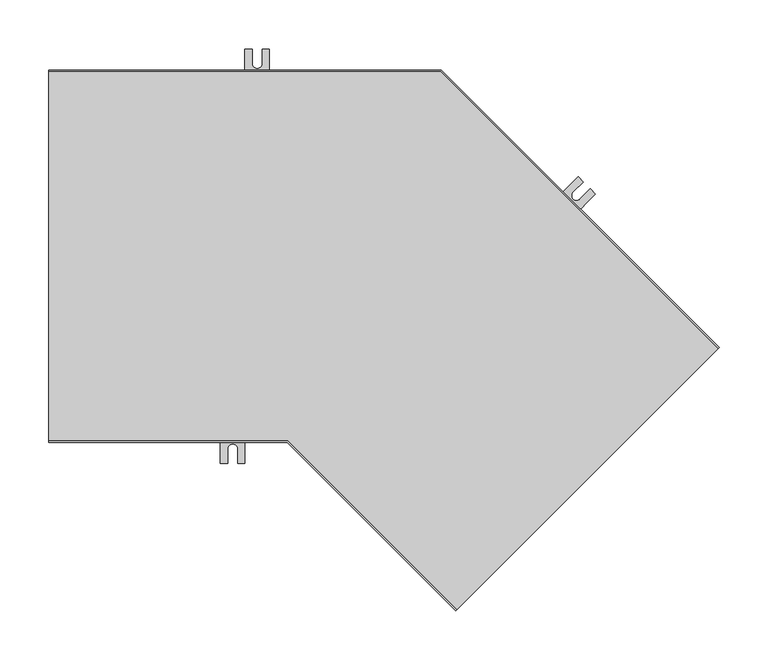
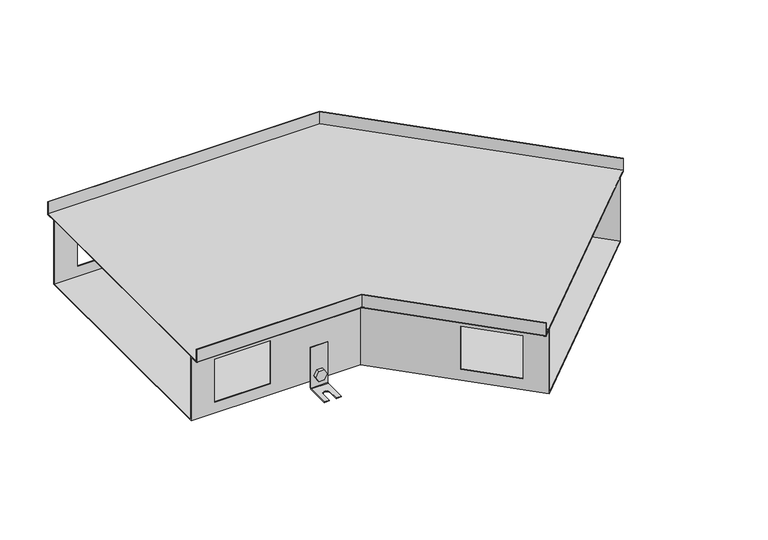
"""IFC4 building model written with IfcOpenShell, lengths in millimetres: proxy geometry, TECHNO_Угловой элемент_KVU : 380_120_135°."""

import ifcopenshell
import ifcopenshell.guid

model = None  # the IFC model being written
_history = None  # IfcOwnerHistory: only IFC2X3 demands one
_inside = {}  # id of a spatial element -> (the spatial element, [elements in it])
_under = {}  # id of a project, library or spatial element -> (it, [spatial elements below it])
_declared = {}  # id of a project -> (the project, [libraries it declares])
_typed = {}  # id of a type object -> (the type object, [elements of that type])
_made_of = {}  # id of a material, layer set ... -> (it, [elements and type objects made of it])


def new_model(schema):
    """Start an empty IFC model of exactly this schema.

    Asked for "IFC4X3", IfcOpenShell would pick the latest addendum, in which some entities
    have other attributes; the version numbers below select the first issue.
    IFC2X3 requires an IfcOwnerHistory on every rooted entity: one is made here for all.
    """
    global model, _history
    if schema == "IFC4X3":
        model = ifcopenshell.file(schema_version=(4, 3, 0, 0))
    else:
        model = ifcopenshell.file(schema=schema)
    _inside.clear()
    _under.clear()
    _declared.clear()
    _typed.clear()
    _made_of.clear()
    _history = None
    if model.schema == "IFC2X3":
        org = make("IfcOrganization", Name="unknown")
        user = make(
            "IfcPersonAndOrganization",
            ThePerson=make("IfcPerson", FamilyName="unknown"),
            TheOrganization=org,
        )
        app = make(
            "IfcApplication",
            ApplicationDeveloper=org,
            Version="unknown",
            ApplicationFullName="unknown",
            ApplicationIdentifier="unknown",
        )
        _history = make(
            "IfcOwnerHistory",
            OwningUser=user,
            OwningApplication=app,
            ChangeAction="ADDED",
            CreationDate=0,
        )
    return model


def make(cls, **values):
    """One entity of the class cls with the attributes given. An attribute that is None is left unset."""
    return model.create_entity(
        cls, **{name: value for name, value in values.items() if value is not None}
    )


def rooted(cls, **values):
    """An entity with a GlobalId (a new one), such as an element, a storey or a relation."""
    return make(cls, GlobalId=ifcopenshell.guid.new(), OwnerHistory=_history, **values)


def si_unit(unit_type, name, prefix=None):
    """IfcSIUnit, for example si_unit("LENGTHUNIT", "METRE", prefix="MILLI")."""
    return make("IfcSIUnit", UnitType=unit_type, Prefix=prefix, Name=name)


def assignment(units):
    """IfcUnitAssignment: the units of a project."""
    return None if units is None else make("IfcUnitAssignment", Units=units)


def point(xyz):
    """IfcCartesianPoint."""
    return None if xyz is None else make("IfcCartesianPoint", Coordinates=xyz)


def direction(xyz):
    """IfcDirection."""
    return None if xyz is None else make("IfcDirection", DirectionRatios=xyz)


def frame(location, z_axis=None, x_axis=None):
    """IfcAxis2Placement3D, a coordinate frame: its origin and axes. An axis left out is left unset."""
    return make(
        "IfcAxis2Placement3D",
        Location=point(location),
        Axis=direction(z_axis),
        RefDirection=direction(x_axis),
    )


def frame_2d(location, x_axis=None):
    """IfcAxis2Placement2D, a coordinate frame in the plane: its origin and x axis."""
    return make(
        "IfcAxis2Placement2D", Location=point(location), RefDirection=direction(x_axis)
    )


def origin():
    """The frame at (0, 0, 0) with its axes left unset."""
    return frame((0.0, 0.0, 0.0))


def place(relative_to, where):
    """IfcLocalPlacement: puts the frame where relative to a parent placement (None: the world)."""
    return make(
        "IfcLocalPlacement", PlacementRelTo=relative_to, RelativePlacement=where
    )


def context(
    kind, dimensions, precision=None, world=None, true_north=None, identifier=None
):
    """IfcGeometricRepresentationContext, for example the 3D "Model" context."""
    return make(
        "IfcGeometricRepresentationContext",
        ContextIdentifier=identifier,
        ContextType=kind,
        CoordinateSpaceDimension=dimensions,
        Precision=precision,
        WorldCoordinateSystem=world,
        TrueNorth=true_north,
    )


def project(units=None, contexts=None):
    """IfcProject with its units and contexts."""
    return rooted(
        "IfcProject",
        Name="project",
        RepresentationContexts=contexts,
        UnitsInContext=assignment(units),
    )


def spatial(cls, under=None, at=None, **own):
    """A site, building, storey or space (cls), placed at a placement, below another one or the project."""
    s = rooted(cls, ObjectPlacement=at, **own)
    if under is not None:
        _under.setdefault(under.id(), (under, []))[1].append(s)
    return s


def polyline(points):
    """IfcPolyline through the points."""
    return make("IfcPolyline", Points=[point(p) for p in points])


def circle_curve(where, radius):
    """IfcCircle in the frame where."""
    return make("IfcCircle", Position=where, Radius=radius)


def ellipse_curve(where, semi_axis1, semi_axis2):
    """IfcEllipse in the frame where."""
    return make(
        "IfcEllipse", Position=where, SemiAxis1=semi_axis1, SemiAxis2=semi_axis2
    )


def trimmed(basis, trim1, trim2, sense, master):
    """IfcTrimmedCurve: the piece of a basis curve between two trims."""
    return make(
        "IfcTrimmedCurve",
        BasisCurve=basis,
        Trim1=trim1,
        Trim2=trim2,
        SenseAgreement=sense,
        MasterRepresentation=master,
    )


def segment(curve, same_sense, transition):
    """IfcCompositeCurveSegment."""
    return make(
        "IfcCompositeCurveSegment",
        Transition=transition,
        SameSense=same_sense,
        ParentCurve=curve,
    )


def composite_curve(segments, self_intersect=None):
    """IfcCompositeCurve: segments joined end to end."""
    return make("IfcCompositeCurve", Segments=segments, SelfIntersect=self_intersect)


def outline(outer, holes=None, kind="AREA"):
    """IfcArbitraryClosedProfileDef: a profile drawn as a closed curve; with holes, ...WithVoids."""
    if holes is None:
        return make("IfcArbitraryClosedProfileDef", ProfileType=kind, OuterCurve=outer)
    return make(
        "IfcArbitraryProfileDefWithVoids",
        ProfileType=kind,
        OuterCurve=outer,
        InnerCurves=holes,
    )


def extrude(swept, where, along, depth):
    """IfcExtrudedAreaSolid: the profile swept, set in the frame where, extruded along a direction by depth."""
    return make(
        "IfcExtrudedAreaSolid",
        SweptArea=swept,
        Position=where,
        ExtrudedDirection=direction(along),
        Depth=depth,
    )


def shape(context_of_items, identifier, shape_type, items):
    """IfcShapeRepresentation: the items that make up one representation, for example the "Body"."""
    return make(
        "IfcShapeRepresentation",
        ContextOfItems=context_of_items,
        RepresentationIdentifier=identifier,
        RepresentationType=shape_type,
        Items=items,
    )


def source(mapping_origin, context_of_items, identifier, shape_type, items):
    """IfcRepresentationMap: a shape defined once, which mapped items show again and again."""
    return make(
        "IfcRepresentationMap",
        MappingOrigin=mapping_origin,
        MappedRepresentation=shape(context_of_items, identifier, shape_type, items),
    )


def transform(
    local_origin,
    x_axis=None,
    y_axis=None,
    z_axis=None,
    scale=None,
    scale2=None,
    scale3=None,
    uniform=True,
):
    """IfcCartesianTransformationOperator3D, or its non-uniform kind. x_axis, y_axis, z_axis: its Axis1, 2, 3."""
    if uniform:
        return make(
            "IfcCartesianTransformationOperator3D",
            Axis1=direction(x_axis),
            Axis2=direction(y_axis),
            LocalOrigin=point(local_origin),
            Scale=scale,
            Axis3=direction(z_axis),
        )
    return make(
        "IfcCartesianTransformationOperator3DnonUniform",
        Axis1=direction(x_axis),
        Axis2=direction(y_axis),
        LocalOrigin=point(local_origin),
        Scale=scale,
        Axis3=direction(z_axis),
        Scale2=scale2,
        Scale3=scale3,
    )


def mapped(mapping_source, mapping_target):
    """IfcMappedItem: shows the shape of a source again, moved by a transform."""
    return make(
        "IfcMappedItem", MappingSource=mapping_source, MappingTarget=mapping_target
    )


def made_of(thing, what):
    """Note that an element or type object is made of a material, layer set ...; save() writes the relation."""
    if what is not None:
        _made_of.setdefault(what.id(), (what, []))[1].append(thing)
    return thing


def element(
    cls,
    number,
    at=None,
    inside=None,
    cuts=None,
    type_object=None,
    material=None,
    context=None,
    identifier="Body",
    shape_type=None,
    held_by="IfcProductDefinitionShape",
    body=None,
    shapes=None,
    **own,
):
    """One element of the class cls, such as IfcWall. Its Tag is "e" and its number.

    at: its placement. inside: the storey or other place that contains it. cuts: it is an
    opening in that element (IfcRelVoidsElement). A single representation is given by context,
    identifier, shape_type and body (its items); several are given by shapes. held_by: the class
    of the entity that holds the representations. save() writes the other relations.
    """
    e = rooted(cls, Tag="e%d" % number, ObjectPlacement=at, **own)
    if body is not None:
        shapes = [shape(context, identifier, shape_type, body)]
    if shapes is not None:
        e.Representation = make(held_by, Representations=shapes)
    if inside is not None:
        _inside.setdefault(inside.id(), (inside, []))[1].append(e)
    if cuts is not None:
        rooted(
            "IfcRelVoidsElement", RelatingBuildingElement=cuts, RelatedOpeningElement=e
        )
    if type_object is not None:
        _typed.setdefault(type_object.id(), (type_object, []))[1].append(e)
    return made_of(e, material)


def aggregate(whole, parts):
    """IfcRelAggregates: a whole, such as a stair, and the parts it consists of."""
    return rooted("IfcRelAggregates", RelatingObject=whole, RelatedObjects=parts)


def save(model, path):
    """Write the relations noted so far, then the file.

    IfcRelAggregates (storeys below a building ...), IfcRelContainedInSpatialStructure (elements
    in a storey), IfcRelDefinesByType, IfcRelAssociatesMaterial and IfcRelDeclares: one each for
    every whole, place, type object, material and project.
    """
    for whole, parts in _under.values():
        aggregate(whole, parts)
    for where, things in _inside.values():
        rooted(
            "IfcRelContainedInSpatialStructure",
            RelatedElements=things,
            RelatingStructure=where,
        )
    for kind, things in _typed.values():
        rooted("IfcRelDefinesByType", RelatedObjects=things, RelatingType=kind)
    for what, things in _made_of.values():
        rooted("IfcRelAssociatesMaterial", RelatedObjects=things, RelatingMaterial=what)
    for by, libraries in _declared.values():
        rooted("IfcRelDeclares", RelatingContext=by, RelatedDefinitions=libraries)
    model.write(path)


def plane_surface(at):
    """IfcPlane: the flat surface through the origin of the frame at, square to its z axis."""
    return make("IfcPlane", Position=at)


def cylinder_surface(at, radius):
    """IfcCylindricalSurface: all points at the distance radius from the z axis of the frame at."""
    return make("IfcCylindricalSurface", Position=at, Radius=radius)


def revolved_surface(curve, axis_point, axis_direction):
    """IfcSurfaceOfRevolution: the curve turned about the line through axis_point along axis_direction."""
    return make(
        "IfcSurfaceOfRevolution",
        SweptCurve=make("IfcArbitraryOpenProfileDef", ProfileType="CURVE", Curve=curve),
        AxisPosition=make("IfcAxis1Placement", Location=point(axis_point), Axis=direction(axis_direction)),
    )


def advanced_brep(points, edges, surfaces, faces):
    """IfcAdvancedBrep: a solid bounded by faces that lie on surfaces and meet in shared edges.

    An edge is (start, end): straight between two places in points (the first is 0);
    or (start, end, curve); or (start, end, curve, False) where it runs against its curve.
    A face is (place in surfaces, loops), or (place, loops, False) where it looks against
    its surface's normal. A loop lists edges by number (the first is 1), with a minus sign
    where the edge is run from its end to its start. The first loop is the outer one.
    """
    corners = [point(p) for p in points]
    vertices = [make("IfcVertexPoint", VertexGeometry=c) for c in corners]
    made = []
    for start, end, *more in edges:
        made.append(
            make(
                "IfcEdgeCurve",
                EdgeStart=vertices[start],
                EdgeEnd=vertices[end],
                EdgeGeometry=more[0] if more else make("IfcPolyline", Points=[corners[start], corners[end]]),
                SameSense=more[1] if len(more) > 1 else True,
            )
        )
    hull = []
    for where, loops, *sense in faces:
        bounds = []
        for j, loop in enumerate(loops):
            ring = [make("IfcOrientedEdge", EdgeElement=made[abs(k) - 1], Orientation=k > 0) for k in loop]
            bounds.append(
                make(
                    "IfcFaceOuterBound" if j == 0 else "IfcFaceBound",
                    Bound=make("IfcEdgeLoop", EdgeList=ring),
                    Orientation=True,
                )
            )
        hull.append(make("IfcAdvancedFace", Bounds=bounds, FaceSurface=surfaces[where], SameSense=sense[0] if sense else True))
    return make("IfcAdvancedBrep", Outer=make("IfcClosedShell", CfsFaces=hull))


def mechanical_equipment_12d65528(model_context):
    return source(origin(), model_context, "Body", "SolidModel", [
        extrude(outline(composite_curve([segment(trimmed(circle_curve(frame_2d((0.0, -7.5)), 7.5), [point((0.0, -15.0))], [point((0.0, 0.0))], False, "CARTESIAN"), True, "CONTINUOUS"), segment(trimmed(circle_curve(frame_2d((0.0, -7.5)), 7.5), [point((0.0, 0.0))], [point((0.0, -15.0))], False, "CARTESIAN"), True, "CONTINUOUS")], self_intersect=False)), frame((482.1001225, -40.233968, -110.5), z_axis=(0.7071067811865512, 0.7071067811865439, 0.0), x_axis=(0.0, 0.0, 1.0)), (0.0, 0.0, 1.0), 1.5),
        extrude(outline(polyline([(0.0, 0.0), (8.660254, 0.0), (12.990381, -7.5), (8.660254, -15.0), (0.0, -15.0), (-4.330127, -7.5), (0.0, 0.0)])), frame((466.2183246, -33.2617155, -110.5), z_axis=(0.7071067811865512, 0.7071067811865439, 0.0), x_axis=(0.3535533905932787, -0.3535533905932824, -0.8660254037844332)), (0.0, 0.0, 1.0), 5.1),
        advanced_brep(
        [(484.7871283, -44.61803, -65.5), (484.7871283, -44.61803, -128.5), (484.2214429, -45.1837154, -129.3), (460.8869191, -68.5182392, -129.3), (460.8869191, -68.5182392, -130.5), (484.2214429, -45.1837154, -130.5), (485.6356565, -43.7695019, -128.5), (485.6356565, -43.7695019, -65.5), (467.1094588, -26.9403605, -65.5), (467.9579869, -26.0918323, -65.5), (467.9579869, -26.0918323, -128.5), (466.5437734, -27.5060459, -130.5), (443.2092496, -50.8405697, -130.5), (443.2092496, -50.8405697, -129.3), (466.5437734, -27.5060459, -129.3), (467.1094588, -26.9403605, -128.5), (448.5125504, -56.1438705, -129.3), (459.1191522, -45.5372688, -129.3), (466.19022, -52.6083366, -129.3), (455.5836183, -63.2149383, -129.3), (455.5836183, -63.2149383, -130.5), (448.5125504, -56.1438705, -130.5), (466.19022, -52.6083366, -130.5), (459.1191522, -45.5372688, -130.5)],
        [
            (0, 1),
            (1, 2, circle_curve(frame((484.2214429, -45.1837154, -128.5), z_axis=(-0.7071067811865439, 0.7071067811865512, 0.0), x_axis=(-0.7071067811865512, -0.7071067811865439, 0.0)), 0.8)),
            (2, 3),
            (3, 4),
            (4, 5),
            (5, 6, circle_curve(frame((484.2214429, -45.1837154, -128.5), z_axis=(0.7071067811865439, -0.7071067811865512, 0.0), x_axis=(-0.7071067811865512, -0.7071067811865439, 0.0)), 2.0)),
            (6, 7),
            (7, 0),
            (8, 9),
            (9, 10),
            (10, 11, circle_curve(frame((466.5437734, -27.5060459, -128.5), z_axis=(-0.7071067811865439, 0.7071067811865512, 0.0), x_axis=(-0.7071067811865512, -0.7071067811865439, 0.0)), 2.0)),
            (11, 12),
            (12, 13),
            (13, 14),
            (14, 15, circle_curve(frame((466.5437734, -27.5060459, -128.5), z_axis=(0.7071067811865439, -0.7071067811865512, 0.0), x_axis=(-0.7071067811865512, -0.7071067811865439, 0.0)), 0.8)),
            (15, 8),
            (0, 8),
            (15, 1),
            (14, 2),
            (13, 16),
            (16, 17),
            (17, 18, circle_curve(frame((462.6546861, -49.0728027, -129.3), z_axis=(0.0, 0.0, -1.0), x_axis=(0.7071067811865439, -0.7071067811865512, 0.0)), 5.0)),
            (18, 19),
            (19, 3),
            (19, 20),
            (20, 4),
            (12, 21),
            (21, 16),
            (20, 22),
            (22, 23, circle_curve(frame((462.6546861, -49.0728027, -130.5), z_axis=(0.0, 0.0, 1.0), x_axis=(0.7071067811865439, -0.7071067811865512, 0.0)), 5.0)),
            (23, 21),
            (11, 5),
            (10, 6),
            (9, 7),
            (23, 17),
            (18, 22),
        ],
        [
            plane_surface(frame((484.7871283, -44.61803, -65.5), z_axis=(0.7071067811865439, -0.7071067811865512, 0.0), x_axis=(0.0, 0.0, -1.0))),
            plane_surface(frame((467.1094588, -26.9403605, -65.5), z_axis=(-0.7071067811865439, 0.7071067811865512, 0.0), x_axis=(0.0, 0.0, 1.0))),
            plane_surface(frame((484.7871283, -44.61803, -65.5), z_axis=(-0.7071067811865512, -0.7071067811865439, 0.0), x_axis=(-0.7071067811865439, 0.7071067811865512, 0.0))),
            revolved_surface(polyline([(465.97808797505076, -28.071731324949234, -128.5), (483.6557574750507, -45.74940082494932, -128.5)]), (466.5437734, -27.5060459, -128.5), (-0.7071067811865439, 0.7071067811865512, 0.0)),
            plane_surface(frame((484.2214429, -45.1837154, -129.3), z_axis=(0.0, 0.0, 1.0), x_axis=(-0.7071067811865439, 0.7071067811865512, 0.0))),
            plane_surface(frame((460.8869191, -68.5182392, -129.3), z_axis=(-0.7071067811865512, -0.7071067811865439, 0.0), x_axis=(-0.7071067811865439, 0.7071067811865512, 0.0))),
            plane_surface(frame((460.8869191, -68.5182392, -130.5), z_axis=(0.0, 0.0, -1.0), x_axis=(-0.7071067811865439, 0.7071067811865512, 0.0))),
            cylinder_surface(frame((466.5437734, -27.5060459, -128.5), z_axis=(0.7071067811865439, -0.7071067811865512, 0.0), x_axis=(-0.7071067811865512, -0.7071067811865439, 0.0)), 2.0),
            plane_surface(frame((485.6356565, -43.7695019, -128.5), z_axis=(0.7071067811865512, 0.7071067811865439, 0.0), x_axis=(-0.7071067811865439, 0.7071067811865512, 0.0))),
            plane_surface(frame((485.6356565, -43.7695019, -65.5), z_axis=(0.0, 0.0, 1.0), x_axis=(-0.7071067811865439, 0.7071067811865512, 0.0))),
            plane_surface(frame((459.1191522, -45.5372688, -129.3), z_axis=(0.7071067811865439, -0.7071067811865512, 0.0), x_axis=(0.0, 0.0, -1.0))),
            plane_surface(frame((455.5836183, -63.2149383, -129.3), z_axis=(-0.707106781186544, 0.7071067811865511, 0.0), x_axis=(0.0, 0.0, -1.0))),
            revolved_surface(polyline([(466.1902200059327, -52.608336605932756, -129.3), (466.1902200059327, -52.608336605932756, -130.5)]), (462.6546861, -49.0728027, -130.5), (0.0, 0.0, 1.0)),
        ],
        [
            (0, [[1, 2, 3, 4, 5, 6, 7, 8]]),
            (1, [[9, 10, 11, 12, 13, 14, 15, 16]]),
            (2, [[-1, 17, -16, 18]]),
            (3, [[-2, -18, -15, 19]]),
            (4, [[-3, -19, -14, 20, 21, 22, 23, 24]]),
            (5, [[-4, -24, 25, 26]]),
            (5, [[-13, 27, 28, -20]]),
            (6, [[-5, -26, 29, 30, 31, -27, -12, 32]]),
            (7, [[-6, -32, -11, 33]]),
            (8, [[-7, -33, -10, 34]]),
            (9, [[-8, -34, -9, -17]]),
            (10, [[35, -21, -28, -31]]),
            (11, [[36, -29, -25, -23]]),
            (12, [[-35, -30, -36, -22]]),
        ],
    ),
        extrude(outline(composite_curve([segment(trimmed(circle_curve(frame_2d((0.0, -7.5)), 7.5), [point((0.0, -15.0))], [point((0.0, 0.0))], False, "CARTESIAN"), True, "CONTINUOUS"), segment(trimmed(circle_curve(frame_2d((0.0, -7.5)), 7.5), [point((0.0, 0.0))], [point((0.0, -15.0))], False, "CARTESIAN"), True, "CONTINUOUS")], self_intersect=False)), frame((517.6675936, 51.9020456, -110.5), z_axis=(0.7071067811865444, 0.7071067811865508, 0.0), x_axis=(0.0, 0.0, -1.0)), (0.0, 0.0, 1.0), 1.5),
        extrude(outline(polyline([(0.0, 0.0), (4.330127, -7.5), (0.0, -15.0000001), (-8.660254, -15.0), (-12.9903811, -7.5000001), (-8.6602541, 0.0), (0.0, 0.0)])), frame((531.0038072, 42.3842087, -110.5), z_axis=(0.7071067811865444, 0.7071067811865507, 0.0), x_axis=(0.35355339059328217, -0.35355339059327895, 0.8660254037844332)), (0.0, 0.0, 1.0), 5.1),
        advanced_brep(
        [(516.041248, 57.3467678, -65.5), (516.041248, 57.3467678, -128.5), (516.6069335, 57.9124533, -129.3), (539.9414572, 81.2469771, -129.3), (539.9414572, 81.2469771, -130.5), (516.6069335, 57.9124533, -130.5), (515.1927199, 56.4982397, -128.5), (515.1927199, 56.4982397, -65.5), (533.7189176, 39.6690983, -65.5), (532.8703894, 38.8205702, -65.5), (532.8703894, 38.8205702, -128.5), (534.284603, 40.2347837, -130.5), (557.6191268, 63.5693075, -130.5), (557.6191268, 63.5693075, -129.3), (534.284603, 40.2347837, -129.3), (533.7189176, 39.6690983, -128.5), (552.3158259, 68.8726084, -129.3), (541.7092242, 58.2660067, -129.3), (534.6381564, 65.3370745, -129.3), (545.2447581, 75.9436762, -129.3), (545.2447581, 75.9436762, -130.5), (552.3158259, 68.8726084, -130.5), (534.6381564, 65.3370745, -130.5), (541.7092242, 58.2660067, -130.5)],
        [
            (0, 1),
            (1, 2, circle_curve(frame((516.6069335, 57.9124533, -128.5), z_axis=(0.7071067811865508, -0.7071067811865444, 0.0), x_axis=(0.7071067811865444, 0.7071067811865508, 0.0)), 0.8)),
            (2, 3),
            (3, 4),
            (4, 5),
            (5, 6, circle_curve(frame((516.6069335, 57.9124533, -128.5), z_axis=(-0.7071067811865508, 0.7071067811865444, 0.0), x_axis=(0.7071067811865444, 0.7071067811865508, 0.0)), 2.0)),
            (6, 7),
            (7, 0),
            (8, 9),
            (9, 10),
            (10, 11, circle_curve(frame((534.284603, 40.2347837, -128.5), z_axis=(0.7071067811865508, -0.7071067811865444, 0.0), x_axis=(0.7071067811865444, 0.7071067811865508, 0.0)), 2.0)),
            (11, 12),
            (12, 13),
            (13, 14),
            (14, 15, circle_curve(frame((534.284603, 40.2347837, -128.5), z_axis=(-0.7071067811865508, 0.7071067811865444, 0.0), x_axis=(0.7071067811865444, 0.7071067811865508, 0.0)), 0.8)),
            (15, 8),
            (0, 8),
            (15, 1),
            (14, 2),
            (13, 16),
            (16, 17),
            (17, 18, circle_curve(frame((538.1736903, 61.8015406, -129.3), z_axis=(0.0, 0.0, -1.0), x_axis=(-0.7071067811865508, 0.7071067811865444, 0.0)), 5.0)),
            (18, 19),
            (19, 3),
            (19, 20),
            (20, 4),
            (12, 21),
            (21, 16),
            (20, 22),
            (22, 23, circle_curve(frame((538.1736903, 61.8015406, -130.5), z_axis=(0.0, 0.0, 1.0), x_axis=(-0.7071067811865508, 0.7071067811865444, 0.0)), 5.0)),
            (23, 21),
            (11, 5),
            (10, 6),
            (9, 7),
            (23, 17),
            (18, 22),
        ],
        [
            plane_surface(frame((516.041248, 57.3467678, -65.5), z_axis=(-0.7071067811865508, 0.7071067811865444, 0.0), x_axis=(0.0, 0.0, -1.0))),
            plane_surface(frame((533.7189176, 39.6690983, -65.5), z_axis=(0.7071067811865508, -0.7071067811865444, 0.0), x_axis=(0.0, 0.0, 1.0))),
            plane_surface(frame((516.041248, 57.3467678, -65.5), z_axis=(0.7071067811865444, 0.7071067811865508, 0.0), x_axis=(0.7071067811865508, -0.7071067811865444, 0.0))),
            revolved_surface(polyline([(534.8502884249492, 40.800469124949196, -128.5), (517.1726188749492, 58.47813867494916, -128.5)]), (534.284603, 40.2347837, -128.5), (0.7071067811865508, -0.7071067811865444, 0.0)),
            plane_surface(frame((516.6069335, 57.9124533, -129.3), z_axis=(0.0, 0.0, 1.0000000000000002), x_axis=(0.7071067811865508, -0.7071067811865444, 0.0))),
            plane_surface(frame((539.9414572, 81.2469771, -129.3), z_axis=(0.7071067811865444, 0.7071067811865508, 0.0), x_axis=(0.7071067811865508, -0.7071067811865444, 0.0))),
            plane_surface(frame((539.9414572, 81.2469771, -130.5), z_axis=(0.0, 0.0, -1.0000000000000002), x_axis=(0.7071067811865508, -0.7071067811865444, 0.0))),
            cylinder_surface(frame((534.284603, 40.2347837, -128.5), z_axis=(-0.7071067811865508, 0.7071067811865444, 0.0), x_axis=(0.7071067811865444, 0.7071067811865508, 0.0)), 2.0),
            plane_surface(frame((515.1927199, 56.4982397, -128.5), z_axis=(-0.7071067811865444, -0.7071067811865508, 0.0), x_axis=(0.7071067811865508, -0.7071067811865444, 0.0))),
            plane_surface(frame((515.1927199, 56.4982397, -65.5), z_axis=(0.0, 0.0, 1.0000000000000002), x_axis=(0.7071067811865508, -0.7071067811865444, 0.0))),
            plane_surface(frame((541.7092242, 58.2660067, -129.3), z_axis=(-0.7071067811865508, 0.7071067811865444, 0.0), x_axis=(0.0, 0.0, -1.0))),
            plane_surface(frame((545.2447581, 75.9436762, -129.3), z_axis=(0.7071067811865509, -0.7071067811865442, 0.0), x_axis=(0.0, 0.0, -1.0))),
            revolved_surface(polyline([(534.6381563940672, 65.33707450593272, -129.3), (534.6381563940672, 65.33707450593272, -130.5)]), (538.1736903, 61.8015406, -130.5), (0.0, 0.0, 1.0)),
        ],
        [
            (0, [[1, 2, 3, 4, 5, 6, 7, 8]]),
            (1, [[9, 10, 11, 12, 13, 14, 15, 16]]),
            (2, [[-1, 17, -16, 18]]),
            (3, [[-2, -18, -15, 19]]),
            (4, [[-3, -19, -14, 20, 21, 22, 23, 24]]),
            (5, [[-4, -24, 25, 26]]),
            (5, [[-13, 27, 28, -20]]),
            (6, [[-5, -26, 29, 30, 31, -27, -12, 32]]),
            (7, [[-6, -32, -11, 33]]),
            (8, [[-7, -33, -10, 34]]),
            (9, [[-8, -34, -9, -17]]),
            (10, [[35, -21, -28, -31]]),
            (11, [[36, -29, -25, -23]]),
            (12, [[-35, -30, -36, -22]]),
        ],
    ),
        extrude(outline(composite_curve([segment(trimmed(circle_curve(frame_2d((-110.5, 212.5)), 7.5), [point((-110.5, 205.0))], [point((-110.5, 220.0))], False, "CARTESIAN"), True, "CONTINUOUS"), segment(trimmed(circle_curve(frame_2d((-110.5, 212.5)), 7.5), [point((-110.5, 220.0))], [point((-110.5, 205.0))], False, "CARTESIAN"), True, "CONTINUOUS")], self_intersect=False)), frame((0.0, 175.2, 0.0), z_axis=(0.0, 1.0, 0.0), x_axis=(0.0, 0.0, 1.0)), (0.0, 0.0, 1.0), 1.5),
        extrude(outline(polyline([(-110.5, 203.839746), (-118.0, 208.169873), (-118.0, 216.830127), (-110.5, 221.160254), (-103.0, 216.830127), (-103.0, 208.169873), (-110.5, 203.839746)])), frame((0.0, 177.9, 0.0), z_axis=(0.0, 1.0, 0.0), x_axis=(0.0, 0.0, 1.0)), (0.0, 0.0, 1.0), 5.1),
        advanced_brep(
        [(225.0, 177.9, -65.5), (225.0, 176.7, -65.5), (225.0, 176.7, -128.5), (225.0, 178.7, -130.5), (225.0, 211.7, -130.5), (225.0, 211.7, -129.3), (225.0, 178.7, -129.3), (225.0, 177.9, -128.5), (200.0, 177.9, -65.5), (200.0, 177.9, -128.5), (200.0, 178.7, -129.3), (200.0, 211.7, -129.3), (200.0, 211.7, -130.5), (200.0, 178.7, -130.5), (200.0, 176.7, -128.5), (200.0, 176.7, -65.5), (217.5, 211.7, -129.3), (217.5, 196.7, -129.3), (207.5, 196.7, -129.3), (207.5, 211.7, -129.3), (207.5, 211.7, -130.5), (217.5, 211.7, -130.5), (207.5, 196.7, -130.5), (217.5, 196.7, -130.5)],
        [
            (0, 1),
            (1, 2),
            (2, 3, circle_curve(frame((225.0, 178.7, -128.5), z_axis=(1.0, 0.0, 0.0), x_axis=(0.0, 1.0, 0.0)), 2.0)),
            (3, 4),
            (4, 5),
            (5, 6),
            (6, 7, circle_curve(frame((225.0, 178.7, -128.5), z_axis=(-1.0, 0.0, 0.0), x_axis=(0.0, 1.0, 0.0)), 0.8)),
            (7, 0),
            (8, 9),
            (9, 10, circle_curve(frame((200.0, 178.7, -128.5), z_axis=(1.0, 0.0, 0.0), x_axis=(0.0, 1.0, 0.0)), 0.8)),
            (10, 11),
            (11, 12),
            (12, 13),
            (13, 14, circle_curve(frame((200.0, 178.7, -128.5), z_axis=(-1.0, 0.0, 0.0), x_axis=(0.0, 1.0, 0.0)), 2.0)),
            (14, 15),
            (15, 8),
            (7, 9),
            (8, 0),
            (6, 10),
            (5, 16),
            (16, 17),
            (17, 18, circle_curve(frame((212.5, 196.7, -129.3), z_axis=(0.0, 0.0, -1.0), x_axis=(1.0, 0.0, 0.0)), 5.0)),
            (18, 19),
            (19, 11),
            (19, 20),
            (20, 12),
            (4, 21),
            (21, 16),
            (3, 13),
            (20, 22),
            (22, 23, circle_curve(frame((212.5, 196.7, -130.5), z_axis=(0.0, 0.0, 1.0), x_axis=(1.0, 0.0, 0.0)), 5.0)),
            (23, 21),
            (2, 14),
            (1, 15),
            (18, 22),
            (23, 17),
        ],
        [
            plane_surface(frame((225.0, 177.9, -65.5), z_axis=(1.0, 0.0, 0.0), x_axis=(0.0, 0.0, -1.0))),
            plane_surface(frame((200.0, 177.9, -65.5), z_axis=(-1.0, 0.0, 0.0), x_axis=(0.0, 0.0, 1.0))),
            plane_surface(frame((225.0, 177.9, -65.5), z_axis=(0.0, 1.0, 0.0), x_axis=(-1.0, 0.0, 0.0))),
            revolved_surface(polyline([(200.0, 179.5, -128.5), (225.0, 179.5, -128.5)]), (200.0, 178.7, -128.5), (-1.0, 0.0, 0.0)),
            plane_surface(frame((225.0, 178.7, -129.3), z_axis=(0.0, 0.0, 1.0), x_axis=(-1.0, 0.0, 0.0))),
            plane_surface(frame((225.0, 211.7, -129.3), z_axis=(0.0, 1.0, 0.0), x_axis=(-1.0, 0.0, 0.0))),
            plane_surface(frame((225.0, 211.7, -130.5), z_axis=(0.0, 0.0, -1.0), x_axis=(-1.0, 0.0, 0.0))),
            cylinder_surface(frame((200.0, 178.7, -128.5), z_axis=(1.0, 0.0, 0.0), x_axis=(0.0, 1.0, 0.0)), 2.0),
            plane_surface(frame((225.0, 176.7, -128.5), z_axis=(0.0, -1.0, 0.0), x_axis=(-1.0, 0.0, 0.0))),
            plane_surface(frame((225.0, 176.7, -65.5), z_axis=(0.0, 0.0, 1.0), x_axis=(-1.0, 0.0, 0.0))),
            plane_surface(frame((207.5, 196.7, -129.3), z_axis=(1.0, 0.0, 0.0), x_axis=(0.0, 0.0, -1.0))),
            plane_surface(frame((217.5, 211.7, -129.3), z_axis=(-1.0, 0.0, 0.0), x_axis=(0.0, 0.0, -1.0))),
            revolved_surface(polyline([(217.5, 196.7, -129.3), (217.5, 196.7, -130.5)]), (212.5, 196.7, -130.5), (0.0, 0.0, 1.0)),
        ],
        [
            (0, [[1, 2, 3, 4, 5, 6, 7, 8]]),
            (1, [[9, 10, 11, 12, 13, 14, 15, 16]]),
            (2, [[17, -9, 18, -8]]),
            (3, [[19, -10, -17, -7]]),
            (4, [[20, 21, 22, 23, 24, -11, -19, -6]]),
            (5, [[-24, 25, 26, -12]]),
            (5, [[27, 28, -20, -5]]),
            (6, [[29, -13, -26, 30, 31, 32, -27, -4]]),
            (7, [[33, -14, -29, -3]]),
            (8, [[34, -15, -33, -2]]),
            (9, [[-18, -16, -34, -1]]),
            (10, [[-30, -25, -23, 35]]),
            (11, [[-21, -28, -32, 36]]),
            (12, [[-22, -36, -31, -35]]),
        ],
    ),
        extrude(outline(composite_curve([segment(trimmed(circle_curve(frame_2d((-110.5, 187.5)), 7.5), [point((-110.5, 180.0))], [point((-110.5, 195.0))], False, "CARTESIAN"), True, "CONTINUOUS"), segment(trimmed(circle_curve(frame_2d((-110.5, 187.5)), 7.5), [point((-110.5, 195.0))], [point((-110.5, 180.0))], False, "CARTESIAN"), True, "CONTINUOUS")], self_intersect=False)), frame((0.0, -176.7, 0.0), z_axis=(0.0, 1.0, 0.0), x_axis=(0.0, 0.0, 1.0)), (0.0, 0.0, 1.0), 1.5),
        extrude(outline(polyline([(-110.5, 178.839746), (-118.0, 183.169873), (-118.0, 191.830127), (-110.5, 196.160254), (-103.0, 191.830127), (-103.0, 183.169873), (-110.5, 178.839746)])), frame((0.0, -183.0, 0.0), z_axis=(0.0, 1.0, 0.0), x_axis=(0.0, 0.0, 1.0)), (0.0, 0.0, 1.0), 5.1),
        advanced_brep(
        [(200.0, -177.9, -65.5), (200.0, -177.9, -128.5), (200.0, -178.7, -129.3), (200.0, -211.7, -129.3), (200.0, -211.7, -130.5), (200.0, -178.7, -130.5), (200.0, -176.7, -128.5), (200.0, -176.7, -65.5), (175.0, -177.9, -65.5), (175.0, -176.7, -65.5), (175.0, -176.7, -128.5), (175.0, -178.7, -130.5), (175.0, -211.7, -130.5), (175.0, -211.7, -129.3), (175.0, -178.7, -129.3), (175.0, -177.9, -128.5), (182.5, -211.7, -129.3), (182.5, -196.7, -129.3), (192.5, -196.7, -129.3), (192.5, -211.7, -129.3), (192.5, -211.7, -130.5), (182.5, -211.7, -130.5), (192.5, -196.7, -130.5), (182.5, -196.7, -130.5)],
        [
            (0, 1),
            (1, 2, circle_curve(frame((200.0, -178.7, -128.5), z_axis=(-1.0, 0.0, 0.0), x_axis=(0.0, -1.0, 0.0)), 0.8)),
            (2, 3),
            (3, 4),
            (4, 5),
            (5, 6, circle_curve(frame((200.0, -178.7, -128.5), z_axis=(1.0, 0.0, 0.0), x_axis=(0.0, -1.0, 0.0)), 2.0)),
            (6, 7),
            (7, 0),
            (8, 9),
            (9, 10),
            (10, 11, circle_curve(frame((175.0, -178.7, -128.5), z_axis=(-1.0, 0.0, 0.0), x_axis=(0.0, -1.0, 0.0)), 2.0)),
            (11, 12),
            (12, 13),
            (13, 14),
            (14, 15, circle_curve(frame((175.0, -178.7, -128.5), z_axis=(1.0, 0.0, 0.0), x_axis=(0.0, -1.0, 0.0)), 0.8)),
            (15, 8),
            (0, 8),
            (15, 1),
            (14, 2),
            (13, 16),
            (16, 17),
            (17, 18, circle_curve(frame((187.5, -196.7, -129.3), z_axis=(0.0, 0.0, -1.0), x_axis=(1.0, 0.0, 0.0)), 5.0)),
            (18, 19),
            (19, 3),
            (19, 20),
            (20, 4),
            (12, 21),
            (21, 16),
            (20, 22),
            (22, 23, circle_curve(frame((187.5, -196.7, -130.5), z_axis=(0.0, 0.0, 1.0), x_axis=(1.0, 0.0, 0.0)), 5.0)),
            (23, 21),
            (11, 5),
            (10, 6),
            (9, 7),
            (23, 17),
            (18, 22),
        ],
        [
            plane_surface(frame((200.0, -177.9, -65.5), z_axis=(1.0, 0.0, 0.0), x_axis=(0.0, 0.0, -1.0))),
            plane_surface(frame((175.0, -177.9, -65.5), z_axis=(-1.0, 0.0, 0.0), x_axis=(0.0, 0.0, 1.0))),
            plane_surface(frame((200.0, -177.9, -65.5), z_axis=(0.0, -1.0, 0.0), x_axis=(-1.0, 0.0, 0.0))),
            revolved_surface(polyline([(175.0, -179.5, -128.5), (200.0, -179.5, -128.5)]), (175.0, -178.7, -128.5), (-1.0, 0.0, 0.0)),
            plane_surface(frame((200.0, -178.7, -129.3), z_axis=(0.0, 0.0, 1.0), x_axis=(-1.0, 0.0, 0.0))),
            plane_surface(frame((200.0, -211.7, -129.3), z_axis=(0.0, -1.0, 0.0), x_axis=(-1.0, 0.0, 0.0))),
            plane_surface(frame((200.0, -211.7, -130.5), z_axis=(0.0, 0.0, -1.0), x_axis=(-1.0, 0.0, 0.0))),
            cylinder_surface(frame((175.0, -178.7, -128.5), z_axis=(1.0, 0.0, 0.0), x_axis=(0.0, -1.0, 0.0)), 2.0),
            plane_surface(frame((200.0, -176.7, -128.5), z_axis=(0.0, 1.0, 0.0), x_axis=(-1.0, 0.0, 0.0))),
            plane_surface(frame((200.0, -176.7, -65.5), z_axis=(0.0, 0.0, 1.0), x_axis=(-1.0, 0.0, 0.0))),
            plane_surface(frame((182.5, -196.7, -129.3), z_axis=(1.0, 0.0, 0.0), x_axis=(0.0, 0.0, -1.0))),
            plane_surface(frame((192.5, -211.7, -129.3), z_axis=(-1.0, 0.0, 0.0), x_axis=(0.0, 0.0, -1.0))),
            revolved_surface(polyline([(192.5, -196.7, -129.3), (192.5, -196.7, -130.5)]), (187.5, -196.7, -130.5), (0.0, 0.0, 1.0)),
        ],
        [
            (0, [[1, 2, 3, 4, 5, 6, 7, 8]]),
            (1, [[9, 10, 11, 12, 13, 14, 15, 16]]),
            (2, [[-1, 17, -16, 18]]),
            (3, [[-2, -18, -15, 19]]),
            (4, [[-3, -19, -14, 20, 21, 22, 23, 24]]),
            (5, [[-4, -24, 25, 26]]),
            (5, [[-13, 27, 28, -20]]),
            (6, [[-5, -26, 29, 30, 31, -27, -12, 32]]),
            (7, [[-6, -32, -11, 33]]),
            (8, [[-7, -33, -10, 34]]),
            (9, [[-8, -34, -9, -17]]),
            (10, [[35, -21, -28, -31]]),
            (11, [[36, -29, -25, -23]]),
            (12, [[-35, -30, -36, -22]]),
        ],
    ),
        extrude(outline(polyline([(682.8477377, -94.044794), (415.8442172, -361.0483146), (243.5959026, -188.8), (0.0, -188.8), (0.0, 188.8), (400.0029437, 188.8), (682.8477377, -94.044794)])), frame((0.0, 0.0, -19.3), z_axis=(0.0, 0.0, 1.0), x_axis=(1.0, 0.0, 0.0)), (0.0, 0.0, 1.0), 1.2),
        advanced_brep(
        [(414.995689, -361.8968427, -19.3), (415.8442172, -361.0483146, -20.5), (425.4608694, -351.4316624, -20.5), (425.4608694, -351.4316624, -120.0), (673.2310855, -103.6614462, -120.0), (673.2310855, -103.6614462, -20.5), (682.8477377, -94.044794, -20.5), (683.6962659, -93.1962659, -19.3), (683.6962659, -93.1962659, 0.0), (682.8477377, -94.044794, 0.0), (682.8477377, -94.044794, -19.3), (673.2310855, -103.6614462, -19.3), (672.3825574, -104.5099744, -20.5), (672.3825574, -104.5099744, -118.8), (426.3093975, -350.5831342, -118.8), (426.3093975, -350.5831342, -20.5), (425.4608694, -351.4316624, -19.3), (415.8442172, -361.0483146, -19.3), (415.8442172, -361.0483146, 0.0), (414.995689, -361.8968427, 0.0), (0.0, -190.0, -19.3), (0.0, -190.0, 0.0), (0.0, -188.8, 0.0), (0.0, -188.8, -19.3), (0.0, -175.2, -19.3), (0.0, -174.0, -20.5), (0.0, -174.0, -118.8), (0.0, 174.0, -118.8), (0.0, 174.0, -20.5), (0.0, 175.2, -19.3), (0.0, 188.8, -19.3), (0.0, 188.8, 0.0), (0.0, 190.0, 0.0), (0.0, 190.0, -19.3), (0.0, 188.8, -20.5), (0.0, 175.2, -20.5), (0.0, 175.2, -120.0), (0.0, -175.2, -120.0), (0.0, -175.2, -20.5), (0.0, -188.8, -20.5), (243.5959026, -188.8, -20.5), (243.0988463, -190.0, -19.3), (243.5959026, -188.8, 0.0), (243.5959026, -188.8, -19.3), (249.229207, -175.2, -120.0), (249.229207, -175.2, -20.5), (35.0, -175.2, -36.0), (117.0, -175.2, -36.0), (117.0, -175.2, -103.0), (35.0, -175.2, -103.0), (249.7262633, -174.0, -20.5), (249.7262633, -174.0, -118.8), (117.0, -174.0, -36.0), (35.0, -174.0, -36.0), (35.0, -174.0, -103.0), (117.0, -174.0, -103.0), (249.229207, -175.2, -19.3), (342.729376, -268.700169, -36.0), (400.712132, -326.682925, -36.0), (400.712132, -326.682925, -103.0), (342.729376, -268.700169, -103.0), (394.3696393, 175.2, -120.0), (393.872583, 174.0, -118.8), (401.5606602, -325.8343969, -36.0), (343.5779041, -267.8516408, -36.0), (343.5779041, -267.8516408, -103.0), (401.5606602, -325.8343969, -103.0), (243.0988463, -190.0, 0.0), (394.3696393, 175.2, -20.5), (648.4823482, -78.9127089, -36.0), (590.4995921, -20.9299528, -36.0), (590.4995921, -20.9299528, -103.0), (648.4823482, -78.9127089, -103.0), (400.0029437, 188.8, -20.5), (400.5, 190.0, -19.3), (400.5, 190.0, 0.0), (400.0029437, 188.8, 0.0), (400.0029437, 188.8, -19.3), (394.3696393, 175.2, -19.3), (393.872583, 174.0, -20.5), (589.651064, -21.778481, -36.0), (647.63382, -79.761237, -36.0), (647.63382, -79.761237, -103.0), (589.651064, -21.778481, -103.0), (117.0, 175.2, -36.0), (35.0, 175.2, -36.0), (35.0, 175.2, -103.0), (117.0, 175.2, -103.0), (35.0, 174.0, -36.0), (117.0, 174.0, -36.0), (117.0, 174.0, -103.0), (35.0, 174.0, -103.0)],
        [
            (0, 1, circle_curve(frame((415.8442172, -361.0483146, -19.3), z_axis=(0.707106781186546, -0.707106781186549, 0.0), x_axis=(-0.707106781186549, -0.707106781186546, 0.0)), 1.2)),
            (1, 2),
            (2, 3),
            (3, 4),
            (4, 5),
            (5, 6),
            (6, 7, circle_curve(frame((682.8477377, -94.044794, -19.3), z_axis=(0.707106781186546, -0.707106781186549, 0.0), x_axis=(-0.707106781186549, -0.707106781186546, 0.0)), 1.2)),
            (7, 8),
            (8, 9),
            (9, 10),
            (10, 11),
            (11, 12, circle_curve(frame((673.2310855, -103.6614462, -20.5), z_axis=(0.707106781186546, -0.707106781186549, 0.0), x_axis=(-0.707106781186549, -0.707106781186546, 0.0)), 1.2)),
            (12, 13),
            (13, 14),
            (14, 15),
            (15, 16, circle_curve(frame((425.4608694, -351.4316624, -20.5), z_axis=(0.707106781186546, -0.707106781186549, 0.0), x_axis=(-0.707106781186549, -0.707106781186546, 0.0)), 1.2)),
            (16, 17),
            (17, 18),
            (18, 19),
            (19, 0),
            (20, 21),
            (21, 22),
            (22, 23),
            (23, 24),
            (24, 25, circle_curve(frame((0.0, -175.2, -20.5), z_axis=(-1.0, 0.0, 0.0), x_axis=(0.0, -1.0, 0.0)), 1.2)),
            (25, 26),
            (26, 27),
            (27, 28),
            (28, 29, circle_curve(frame((0.0, 175.2, -20.5), z_axis=(-1.0, 0.0, 0.0), x_axis=(0.0, -1.0, 0.0)), 1.2)),
            (29, 30),
            (30, 31),
            (31, 32),
            (32, 33),
            (33, 34, circle_curve(frame((0.0, 188.8, -19.3), z_axis=(-1.0, 0.0, 0.0), x_axis=(0.0, -1.0, 0.0)), 1.2)),
            (34, 35),
            (35, 36),
            (36, 37),
            (37, 38),
            (38, 39),
            (39, 20, circle_curve(frame((0.0, -188.8, -19.3), z_axis=(-1.0, 0.0, 0.0), x_axis=(0.0, -1.0, 0.0)), 1.2)),
            (39, 40),
            (40, 41, ellipse_curve(frame((243.5959026, -188.8, -19.3), z_axis=(-0.9238795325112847, 0.3826834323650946, 0.0), x_axis=(0.3826834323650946, 0.9238795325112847, 0.0)), 1.2988706, 1.2)),
            (41, 20),
            (22, 42),
            (42, 43),
            (43, 23),
            (37, 44),
            (44, 45),
            (45, 38),
            (46, 47),
            (47, 48),
            (48, 49),
            (49, 46),
            (25, 50),
            (50, 51),
            (51, 26),
            (52, 53),
            (53, 54),
            (54, 55),
            (55, 52),
            (24, 56),
            (56, 50, ellipse_curve(frame((249.229207, -175.2, -20.5), z_axis=(-0.9238795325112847, 0.3826834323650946, 0.0), x_axis=(0.3826834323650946, 0.9238795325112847, 0.0)), 1.2988706, 1.2)),
            (0, 41),
            (40, 1),
            (45, 2),
            (44, 3),
            (57, 58),
            (58, 59),
            (59, 60),
            (60, 57),
            (36, 61),
            (61, 4),
            (13, 62),
            (62, 27),
            (51, 14),
            (50, 15),
            (63, 64),
            (64, 65),
            (65, 66),
            (66, 63),
            (56, 16),
            (43, 17),
            (42, 18),
            (21, 67),
            (67, 19),
            (61, 68),
            (68, 5),
            (69, 70),
            (70, 71),
            (71, 72),
            (72, 69),
            (68, 35),
            (34, 73),
            (73, 6),
            (73, 74, ellipse_curve(frame((400.0029437, 188.8, -19.3), z_axis=(0.9238795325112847, -0.3826834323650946, 0.0), x_axis=(-0.38268343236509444, -0.9238795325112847, 0.0)), 1.2988706, 1.2)),
            (74, 7),
            (74, 75),
            (75, 8),
            (75, 32),
            (31, 76),
            (76, 9),
            (76, 77),
            (77, 10),
            (77, 30),
            (29, 78),
            (78, 11),
            (78, 79, ellipse_curve(frame((394.3696393, 175.2, -20.5), z_axis=(0.9238795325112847, -0.3826834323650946, 0.0), x_axis=(-0.38268343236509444, -0.9238795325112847, 0.0)), 1.2988706, 1.2)),
            (79, 12),
            (79, 62),
            (80, 81),
            (81, 82),
            (82, 83),
            (83, 80),
            (84, 85),
            (85, 86),
            (86, 87),
            (87, 84),
            (33, 74),
            (28, 79),
            (88, 89),
            (89, 90),
            (90, 91),
            (91, 88),
            (41, 67),
            (46, 53),
            (52, 47),
            (88, 85),
            (84, 89),
            (49, 54),
            (91, 86),
            (48, 55),
            (90, 87),
            (57, 64),
            (63, 58),
            (80, 70),
            (69, 81),
            (66, 59),
            (72, 82),
            (65, 60),
            (71, 83),
        ],
        [
            plane_surface(frame((549.3459774, -227.5465543, 0.0), z_axis=(0.707106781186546, -0.707106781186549, 0.0), x_axis=(0.0, 0.0, 1.0))),
            plane_surface(frame((0.0, 0.0, 0.0), z_axis=(-1.0, 0.0, 0.0), x_axis=(0.0, 0.0, 1.0))),
            cylinder_surface(frame((321.7994231, -188.8, -19.3), z_axis=(1.0, 0.0, 0.0), x_axis=(0.0, -1.0, 0.0)), 1.2),
            plane_surface(frame((243.5959026, -188.8, -19.3), z_axis=(0.0, 1.0, 0.0), x_axis=(-1.0, 0.0, 0.0))),
            plane_surface(frame((249.229207, -175.2, -20.5), z_axis=(0.0, -1.0, 0.0), x_axis=(-1.0, 0.0, 0.0))),
            plane_surface(frame((249.7262633, -174.0, -118.8), z_axis=(0.0, 1.0, 0.0), x_axis=(-1.0, 0.0, 0.0))),
            cylinder_surface(frame((321.7994231, -175.2, -20.5), z_axis=(1.0, 0.0, 0.0), x_axis=(0.0, -1.0, 0.0)), 1.2),
            cylinder_surface(frame((415.8442172, -361.0483146, -19.3), z_axis=(0.707106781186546, -0.707106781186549, 0.0), x_axis=(-0.707106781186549, -0.707106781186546, 0.0)), 1.2),
            plane_surface(frame((415.8442172, -361.0483146, -20.5), z_axis=(0.0, 0.0, -1.0), x_axis=(-0.7071067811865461, 0.7071067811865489, 0.0))),
            plane_surface(frame((425.4608694, -351.4316624, -20.5), z_axis=(-0.7071067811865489, -0.7071067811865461, 0.0), x_axis=(-0.7071067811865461, 0.7071067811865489, 0.0))),
            plane_surface(frame((425.4608694, -351.4316624, -120.0), z_axis=(0.0, 0.0, -1.0), x_axis=(-0.707106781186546, 0.7071067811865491, 0.0))),
            plane_surface(frame((672.3825574, -104.5099744, -118.8), z_axis=(0.0, 0.0, 1.0), x_axis=(-0.7071067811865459, 0.7071067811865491, 0.0))),
            plane_surface(frame((426.3093975, -350.5831342, -118.8), z_axis=(0.7071067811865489, 0.7071067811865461, 0.0), x_axis=(-0.7071067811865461, 0.7071067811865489, 0.0))),
            cylinder_surface(frame((425.4608694, -351.4316624, -20.5), z_axis=(0.707106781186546, -0.707106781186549, 0.0), x_axis=(-0.707106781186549, -0.707106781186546, 0.0)), 1.2),
            plane_surface(frame((425.4608694, -351.4316624, -19.3), z_axis=(0.0, 0.0, 1.0), x_axis=(-0.7071067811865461, 0.7071067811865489, 0.0))),
            plane_surface(frame((415.8442172, -361.0483146, -19.3), z_axis=(0.707106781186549, 0.7071067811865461, 0.0), x_axis=(-0.7071067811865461, 0.707106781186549, 0.0))),
            plane_surface(frame((415.8442172, -361.0483146, 0.0), z_axis=(0.0, 0.0, 1.0), x_axis=(-0.7071067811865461, 0.707106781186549, 0.0))),
            plane_surface(frame((673.2310855, -103.6614462, -120.0), z_axis=(0.7071067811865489, 0.7071067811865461, 0.0), x_axis=(-0.7071067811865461, 0.7071067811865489, 0.0))),
            plane_surface(frame((673.2310855, -103.6614462, -20.5), z_axis=(0.0, 0.0, -1.0), x_axis=(-0.7071067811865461, 0.707106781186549, 0.0))),
            cylinder_surface(frame((682.8477377, -94.044794, -19.3), z_axis=(0.707106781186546, -0.707106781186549, 0.0), x_axis=(-0.707106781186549, -0.707106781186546, 0.0)), 1.2),
            plane_surface(frame((683.6962659, -93.1962659, -19.3), z_axis=(0.7071067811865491, 0.7071067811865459, 0.0), x_axis=(-0.7071067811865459, 0.7071067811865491, 0.0))),
            plane_surface(frame((683.6962659, -93.1962659, 0.0), z_axis=(0.0, 0.0, 1.0), x_axis=(-0.7071067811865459, 0.7071067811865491, 0.0))),
            plane_surface(frame((682.8477377, -94.044794, 0.0), z_axis=(-0.7071067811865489, -0.7071067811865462, 0.0), x_axis=(-0.7071067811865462, 0.7071067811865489, 0.0))),
            plane_surface(frame((682.8477377, -94.044794, -19.3), z_axis=(0.0, 0.0, 1.0), x_axis=(-0.7071067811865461, 0.707106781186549, 0.0))),
            cylinder_surface(frame((673.2310855, -103.6614462, -20.5), z_axis=(0.707106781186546, -0.707106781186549, 0.0), x_axis=(-0.707106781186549, -0.707106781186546, 0.0)), 1.2),
            plane_surface(frame((672.3825574, -104.5099744, -20.5), z_axis=(-0.7071067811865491, -0.7071067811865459, 0.0), x_axis=(-0.7071067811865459, 0.7071067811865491, 0.0))),
            plane_surface(frame((394.3696393, 175.2, -120.0), z_axis=(0.0, 1.0, 0.0), x_axis=(-1.0, 0.0, 0.0))),
            cylinder_surface(frame((321.7994231, 188.8, -19.3), z_axis=(1.0, 0.0, 0.0), x_axis=(0.0, -1.0, 0.0)), 1.2),
            plane_surface(frame((400.5, 190.0, -19.3), z_axis=(0.0, 1.0, 0.0), x_axis=(-1.0, 0.0, 0.0))),
            plane_surface(frame((400.0029437, 188.8, 0.0), z_axis=(0.0, -1.0, 0.0), x_axis=(-1.0, 0.0, 0.0))),
            cylinder_surface(frame((321.7994231, 175.2, -20.5), z_axis=(1.0, 0.0, 0.0), x_axis=(0.0, -1.0, 0.0)), 1.2),
            plane_surface(frame((393.872583, 174.0, -20.5), z_axis=(0.0, -1.0, 0.0), x_axis=(-1.0, 0.0, 0.0))),
            plane_surface(frame((243.0988463, -190.0, 0.0), z_axis=(0.0, -1.0, 0.0), x_axis=(-1.0, 0.0, 0.0))),
            plane_surface(frame((414.995689, -361.8968427, 0.0), z_axis=(-0.7071067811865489, -0.7071067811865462, 0.0), x_axis=(-0.7071067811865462, 0.7071067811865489, 0.0))),
            plane_surface(frame((35.0, 190.0, -36.0), z_axis=(0.0, 0.0, -1.0), x_axis=(0.0, -1.0, 0.0))),
            plane_surface(frame((35.0, 190.0, -103.0), z_axis=(1.0, 0.0, 0.0), x_axis=(0.0, -1.0, 0.0))),
            plane_surface(frame((117.0, 190.0, -103.0), z_axis=(0.0, 0.0, 1.0), x_axis=(0.0, -1.0, 0.0))),
            plane_surface(frame((117.0, 190.0, -36.0), z_axis=(-1.0, 0.0, 0.0), x_axis=(0.0, -1.0, 0.0))),
            plane_surface(frame((600.9647725, -10.4647725, -36.0), z_axis=(0.0, 0.0, -1.0), x_axis=(-0.707106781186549, -0.7071067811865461, 0.0))),
            plane_surface(frame((658.9475285, -68.4475285, -36.0), z_axis=(-0.7071067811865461, 0.707106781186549, 0.0), x_axis=(-0.707106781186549, -0.7071067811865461, 0.0))),
            plane_surface(frame((658.9475285, -68.4475285, -103.0), z_axis=(0.0, 0.0, 1.0), x_axis=(-0.707106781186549, -0.7071067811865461, 0.0))),
            plane_surface(frame((600.9647725, -10.4647725, -103.0), z_axis=(0.7071067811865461, -0.707106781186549, 0.0), x_axis=(-0.707106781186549, -0.7071067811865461, 0.0))),
        ],
        [
            (0, [[1, 2, 3, 4, 5, 6, 7, 8, 9, 10, 11, 12, 13, 14, 15, 16, 17, 18, 19, 20]]),
            (1, [[21, 22, 23, 24, 25, 26, 27, 28, 29, 30, 31, 32, 33, 34, 35, 36, 37, 38, 39, 40]]),
            (2, [[-40, 41, 42, 43]]),
            (3, [[-23, 44, 45, 46]]),
            (4, [[-38, 47, 48, 49], [50, 51, 52, 53]]),
            (5, [[-26, 54, 55, 56], [57, 58, 59, 60]]),
            (6, [[-25, 61, 62, -54]]),
            (7, [[-1, 63, -42, 64]]),
            (8, [[-2, -64, -41, -39, -49, 65]]),
            (9, [[-3, -65, -48, 66], [67, 68, 69, 70]]),
            (10, [[-4, -66, -47, -37, 71, 72]]),
            (11, [[-14, 73, 74, -27, -56, 75]]),
            (12, [[-15, -75, -55, 76], [77, 78, 79, 80]]),
            (13, [[-16, -76, -62, 81]]),
            (14, [[-17, -81, -61, -24, -46, 82]]),
            (15, [[-18, -82, -45, 83]]),
            (16, [[-19, -83, -44, -22, 84, 85]]),
            (17, [[-5, -72, 86, 87], [88, 89, 90, 91]]),
            (18, [[-6, -87, 92, -35, 93, 94]]),
            (19, [[-7, -94, 95, 96]]),
            (20, [[-8, -96, 97, 98]]),
            (21, [[-9, -98, 99, -32, 100, 101]]),
            (22, [[-10, -101, 102, 103]]),
            (23, [[-11, -103, 104, -30, 105, 106]]),
            (24, [[-12, -106, 107, 108]]),
            (25, [[-13, -108, 109, -73], [110, 111, 112, 113]]),
            (26, [[-36, -92, -86, -71], [114, 115, 116, 117]]),
            (27, [[-34, 118, -95, -93]]),
            (28, [[-33, -99, -97, -118]]),
            (29, [[-31, -104, -102, -100]]),
            (30, [[-29, 119, -107, -105]]),
            (31, [[-28, -74, -109, -119], [120, 121, 122, 123]]),
            (32, [[-21, -43, 124, -84]]),
            (33, [[-20, -85, -124, -63]]),
            (34, [[125, -57, 126, -50]]),
            (34, [[127, -114, 128, -120]]),
            (35, [[-125, -53, 129, -58]]),
            (35, [[-127, -123, 130, -115]]),
            (36, [[-129, -52, 131, -59]]),
            (36, [[-130, -122, 132, -116]]),
            (37, [[-131, -51, -126, -60]]),
            (37, [[-132, -121, -128, -117]]),
            (38, [[133, -77, 134, -67]]),
            (38, [[135, -88, 136, -110]]),
            (39, [[-134, -80, 137, -68]]),
            (39, [[-136, -91, 138, -111]]),
            (40, [[-137, -79, 139, -69]]),
            (40, [[-138, -90, 140, -112]]),
            (41, [[-133, -70, -139, -78]]),
            (41, [[-135, -113, -140, -89]]),
        ],
    ),
    ])


if __name__ == "__main__":
    model = new_model("IFC4")
    model_context = context("Model", 3, world=origin())
    ifc_project = project(units=[si_unit("LENGTHUNIT", "METRE", prefix="MILLI")], contexts=[model_context])
    site = spatial("IfcSite", under=ifc_project)
    building = spatial("IfcBuilding", under=site)
    placement = place(None, origin())
    mechanical_equipment_shape = mechanical_equipment_12d65528(model_context)
    element("IfcBuildingElementProxy", 1, Name="TECHNO_Угловой элемент_KVU : 380_120_135°", ObjectType="TECHNO_Угловой элемент_KVU : 380_120_135°", at=placement, inside=building, context=model_context, shape_type="MappedRepresentation", body=[
        mapped(mechanical_equipment_shape, transform((0.0, 0.0, 0.0), x_axis=(1.0, 0.0, 0.0), y_axis=(0.0, 1.0, 0.0), z_axis=(0.0, 0.0, 1.0))),
    ])
    save(model, "model.ifc")
